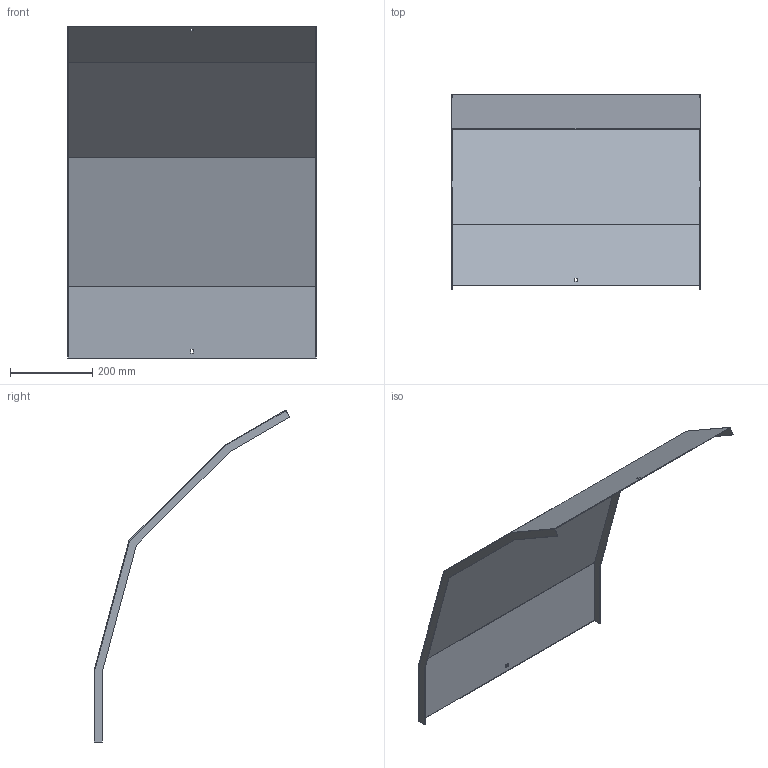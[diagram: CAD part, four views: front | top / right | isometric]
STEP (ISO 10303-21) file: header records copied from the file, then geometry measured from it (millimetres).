
FILE_DESCRIPTION (( 'STEP AP214' ), '1' );
FILE_NAME ('41N5F600.step', '2025-02-21T14:25:21', ( '' ), ( '' ), 'SwSTEP 2.0', 'SolidWorks 2023', '' );
FILE_SCHEMA (( 'AUTOMOTIVE_DESIGN' ));
Length unit declared in the file: millimetre
Products named in the file (1): 41N5F600
Bounding box: 603 x 475.35 x 806.02 mm (x, y, z)
Volume: 957750 mm3; surface area: 1281949.3 mm2
Topology: 1 solids, 1 shells, 30 faces, 84 edges, 56 vertices
Faces by surface type: plane 30
Entity records: 979 total; most frequent: CARTESIAN_POINT 171, ORIENTED_EDGE 168, DIRECTION 146, VECTOR 84, LINE 84, EDGE_CURVE 84, VERTEX_POINT 56, EDGE_LOOP 34
